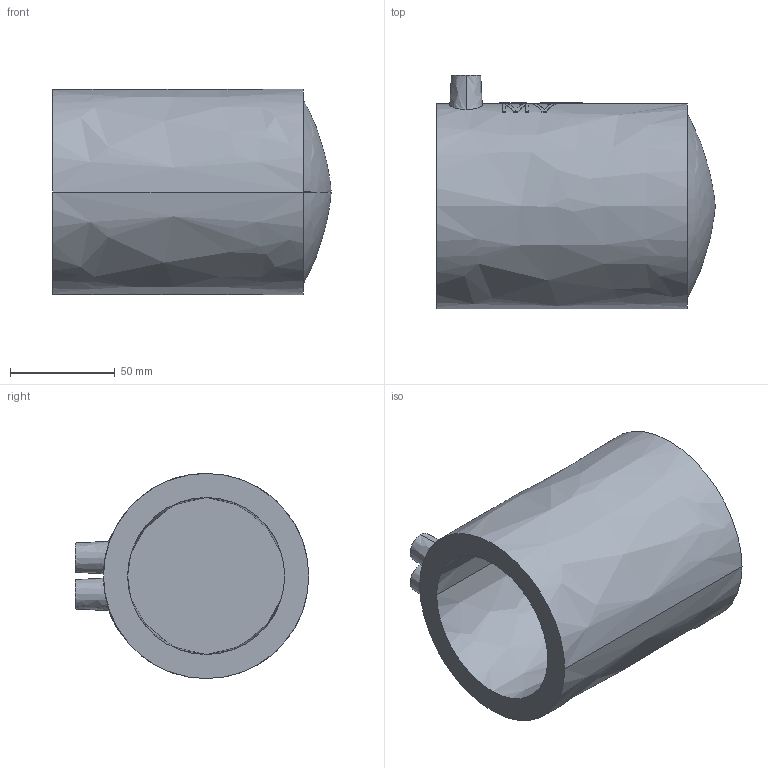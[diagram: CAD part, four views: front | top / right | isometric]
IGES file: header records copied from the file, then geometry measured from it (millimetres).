
Start section:  PTC IGES file: mv_d75.igs
Global section: file name: mv_d75.igs; native system: Pro/ENGINEER by Parametric Technology Corporation; preprocessor: 2006140; author: muellerc; organization: Unknown; date: 20060803.100201; units: millimetre
Bounding box: 133 x 111.5 x 98 mm (x, y, z)
Surface area: 68202.6 mm2 (no closed solid volume)
Topology: 0 solids, 0 shells, 53 faces, 325 edges, 330 vertices
Faces by surface type: bspline 53
